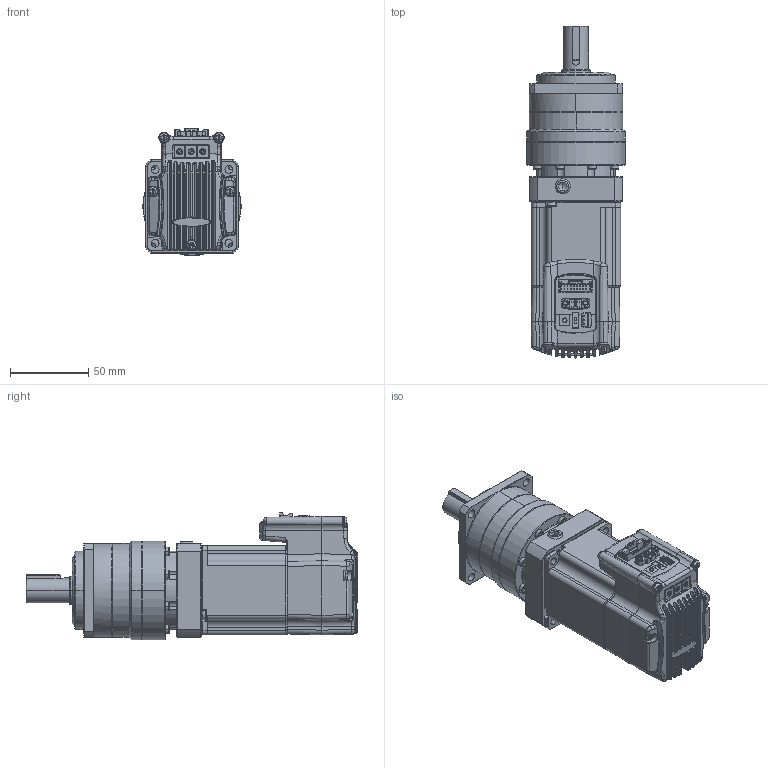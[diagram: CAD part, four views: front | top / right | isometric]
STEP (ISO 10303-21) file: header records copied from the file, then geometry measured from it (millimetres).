
FILE_DESCRIPTION (( 'STEP AP203' ), '1' );
FILE_NAME ('130416 Ezi-SERVO PG-ALL-56M-PN3~10.STEP', '2013-04-17T01:29:28', ( '' ), ( '' ), 'SwSTEP 2.0', 'SolidWorks 2012', '' );
FILE_SCHEMA (( 'CONFIG_CONTROL_DESIGN' ));
Products named in the file (44): 130416 Ezi-SERVO PG-ALL-56M-PN3~10; ST56 1ST; M3 TAPPING SCREW.2_6; M3 TAPPING SCREW.1_6; M3 MACHIN SCREW.3_1; M3 MACHIN SCREW.2_1; M3 MACHIN SCREW.1_1; CASE RR-TYPE B_1; CASE FRT_5; NAME PLATE_5; CONNECTOR PCB_5; DISPLAY PCB_5; POWER PARTS.7_5; POWER PARTS.6_5; POWER PARTS.5_5; POWER PARTS.4_5; POWER PARTS.3_5; POWER PARTS.2_5; POWER PARTS.1_5; MAIN PCB.2_5; MAIN PCB.1_5; _X2_D30CD2B8_X0_80_5; _X2_D30CD2B8_X0_79_5; _X2_D30CD2B8_X0_78_5; _X2_D30CD2B8_X0_75_6_2; _X2_D30CD2B8_X0_75_6; _X2_D30CD2B8_X0_73_6_2; _X2_D30CD2B8_X0_73_6; _X2_D30CD2B8_X0_69_5; MSBR_5; UPPER COVER_5; TRM_SRF_5; _X2_D30CD2B8_X0_115_1; _X2_D30CD2B8_X0_96_7_3; _X2_D30CD2B8_X0_94_7_3; _X2_D30CD2B8_X0_96_7_2; _X2_D30CD2B8_X0_94_7_2; _X2_D30CD2B8_X0_96_7; _X2_D30CD2B8_X0_94_7; F191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
Assembly tree (43 placements, depth 2):
  130416 Ezi-SERVO PG-ALL-56M-PN3~10
    F123
    F134
    F153
    F172
    F191
    _X2_D30CD2B8_X0_94_7
    _X2_D30CD2B8_X0_96_7
    _X2_D30CD2B8_X0_94_7_2
    _X2_D30CD2B8_X0_96_7_2
    _X2_D30CD2B8_X0_94_7_3
    _X2_D30CD2B8_X0_96_7_3
    _X2_D30CD2B8_X0_115_1
    TRM_SRF_5
    UPPER COVER_5
    MSBR_5
    _X2_D30CD2B8_X0_69_5
    _X2_D30CD2B8_X0_73_6
    _X2_D30CD2B8_X0_73_6_2
    _X2_D30CD2B8_X0_75_6
    _X2_D30CD2B8_X0_75_6_2
    _X2_D30CD2B8_X0_78_5
    _X2_D30CD2B8_X0_79_5
    _X2_D30CD2B8_X0_80_5
    MAIN PCB.1_5
    MAIN PCB.2_5
    POWER PARTS.1_5
    POWER PARTS.2_5
    POWER PARTS.3_5
    POWER PARTS.4_5
    POWER PARTS.5_5
    POWER PARTS.6_5
    POWER PARTS.7_5
    DISPLAY PCB_5
    CONNECTOR PCB_5
    NAME PLATE_5
    CASE FRT_5
    CASE RR-TYPE B_1
    M3 MACHIN SCREW.1_1
    M3 MACHIN SCREW.2_1
    M3 MACHIN SCREW.3_1
    M3 TAPPING SCREW.1_6
    M3 TAPPING SCREW.2_6
    ST56 1ST
Bounding box: 63 x 212.21 x 81.43 mm (x, y, z)
Volume: 456061.9 mm3; surface area: 123368.8 mm2
Topology: 41 solids, 43 shells, 3608 faces, 9039 edges, 5527 vertices
Faces by surface type: plane 1579, cylinder 1115, bspline 669, cone 191, torus 54
Entity records: 169908 total; most frequent: CARTESIAN_POINT 87797, ORIENTED_EDGE 17800, DIRECTION 13106, EDGE_CURVE 8922, VERTEX_POINT 5527, AXIS2_PLACEMENT_3D 4405, VECTOR 4296, LINE 4296
